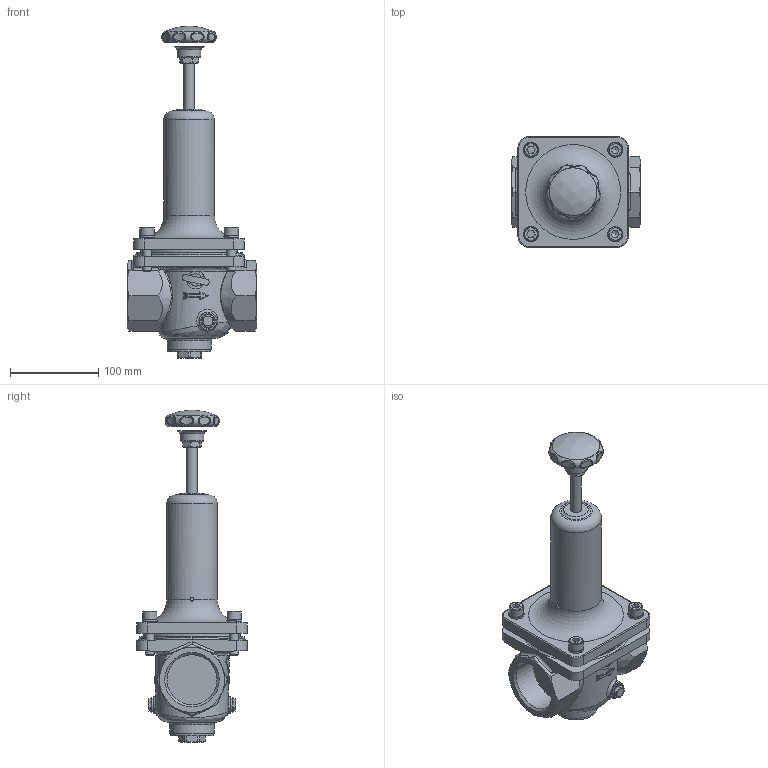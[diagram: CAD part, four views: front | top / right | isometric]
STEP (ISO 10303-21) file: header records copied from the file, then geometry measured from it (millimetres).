
FILE_DESCRIPTION(/* description */ (''),/* implementation_level */ '2;1');
FILE_NAME(/* name */ 'U:/AirCom-Produktdokumentation/Druckregler/RWI/Zeichnungen/CAD-Aircom/3D/B-RWI-16D.step',/* time_stamp */ '2022-07-01T11:58:26+02:00',/* author */ (''),/* organization */ (''),/* preprocessor_version */ 'ST-DEVELOPER v19',/* originating_system */ 'Autodesk Translation Framework v11.7.0.108',/* authorisation */ '');
FILE_SCHEMA (('AUTOMOTIVE_DESIGN { 1 0 10303 214 3 1 1 }'));
Length unit declared in the file: millimetre
Products named in the file (1): 002007_step
Bounding box: 146.5 x 125 x 376.19 mm (x, y, z)
Volume: 1575708.1 mm3; surface area: 153134.7 mm2
Topology: 1 solids, 1 shells, 422 faces, 1160 edges, 769 vertices
Faces by surface type: plane 149, cylinder 112, bspline 76, cone 56, torus 28, sphere 1
Full cylindrical faces by diameter (mm): 4.5 x1, 10 x8, 10.5 x4, 12 x1, 16 x4, 16.5 x2, 20 x2, 26.75 x1, 48 x1, 50 x1, 54 x1, 54.1 x1, 56.66 x2, 57.5 x1, 109.5 x1, 110 x1, 120 x1
Entity records: 22462 total; most frequent: CARTESIAN_POINT 12429, ORIENTED_EDGE 2312, DIRECTION 1839, EDGE_CURVE 1156, VERTEX_POINT 769, AXIS2_PLACEMENT_3D 740, EDGE_LOOP 471, FACE_OUTER_BOUND 422
